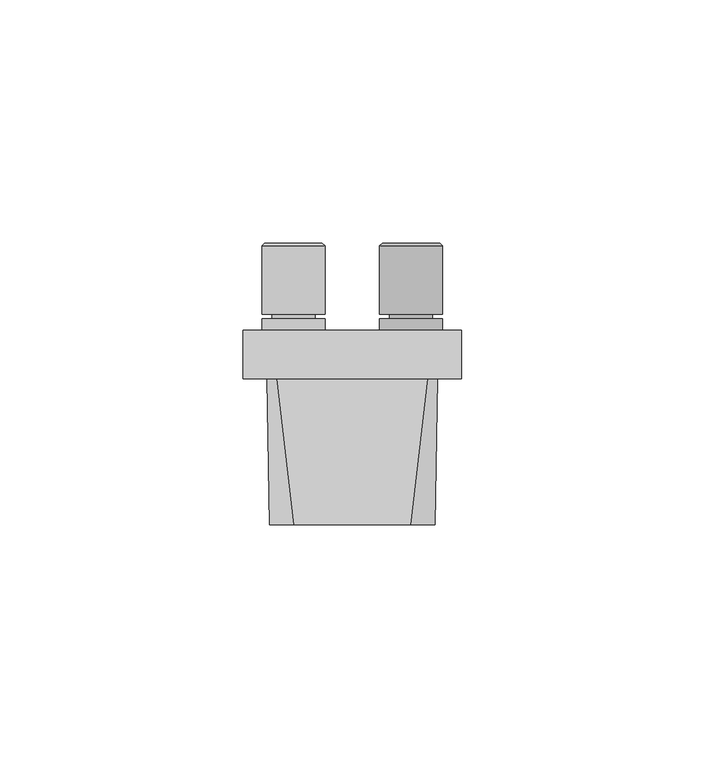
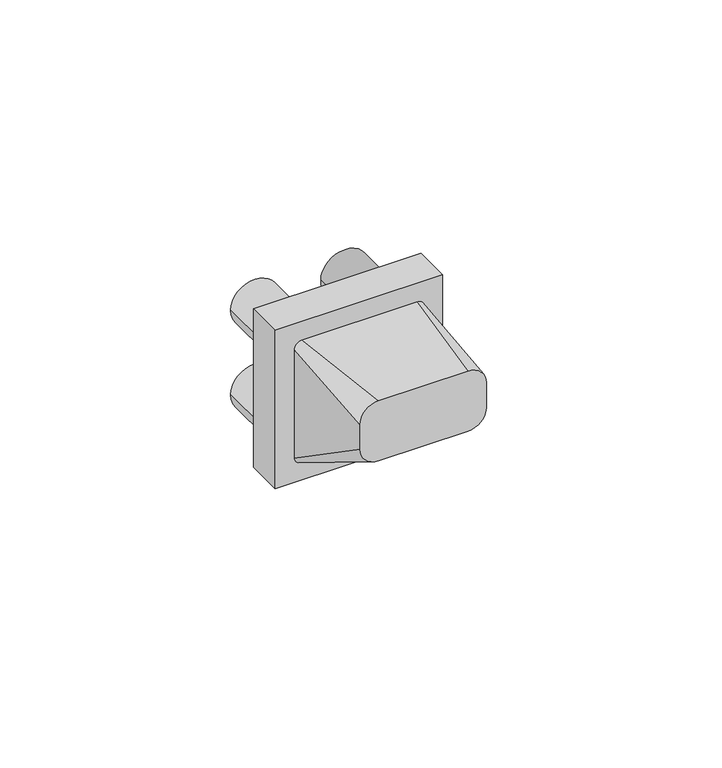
"""IFC4 building model written with IfcOpenShell, lengths in millimetres: proxy geometry, IEK_Skandy_Механизм розетки мультимедийной : АС_SK-A01B."""

from ifc_helpers import new_model, si_unit, frame, origin, place, context, project, spatial, polyline, circle_curve, source, transform, mapped, element, save
from ifc_brep_helpers import plane_surface, cylinder_surface, revolved_surface, spline_surface, advanced_brep


def electrical_fixtures_aca33f49(model_context):
    return source(origin(), model_context, "Body", "AdvancedBrep", [
        advanced_brep(
        [(-8.6801705, 10.0, 10.2159622), (-15.5240968, 10.0, 10.2159622), (-12.1021337, 10.0, 10.2159622), (-8.6801705, 27.9463072, 10.2159622), (-15.5240968, 27.9463072, 10.2159622), (-6.1826229, 27.9463072, 10.2159622), (-18.0216445, 27.9463072, 10.2159622), (-5.6109439, 27.3746282, 10.2159622), (-18.5933235, 27.3746282, 10.2159622), (-5.6109439, 13.294806, 10.2159622), (-18.5933235, 13.294806, 10.2159622), (-7.6805583, 13.294806, 10.2159622), (-16.523709, 13.294806, 10.2159622), (-7.6805583, 12.4143578, 10.2159622), (-16.523709, 12.4143578, 10.2159622), (-5.6109439, 12.4143578, 10.2159622), (-18.5933235, 12.4143578, 10.2159622), (-5.6109439, 3.865818, 10.2159622), (-18.5933235, 3.865818, 10.2159622), (-12.1021337, 3.865818, 10.2159622)],
        [
            (0, 1, circle_curve(frame((-12.1021337, 10.0, 10.2159622), z_axis=(0.0, 1.0, 0.0), x_axis=(-1.0, 0.0, 0.0)), 3.4219631)),
            (1, 2),
            (2, 0),
            (1, 0, circle_curve(frame((-12.1021337, 10.0, 10.2159622), z_axis=(0.0, 1.0, 0.0), x_axis=(-1.0, 0.0, 0.0)), 3.4219631)),
            (3, 4, circle_curve(frame((-12.1021337, 27.9463072, 10.2159622), z_axis=(0.0, 1.0, 0.0), x_axis=(-1.0, 0.0, 0.0)), 3.4219631)),
            (4, 1),
            (0, 3),
            (4, 3, circle_curve(frame((-12.1021337, 27.9463072, 10.2159622), z_axis=(0.0, 1.0, 0.0), x_axis=(-1.0, 0.0, 0.0)), 3.4219631)),
            (5, 6, circle_curve(frame((-12.1021337, 27.9463072, 10.2159622), z_axis=(0.0, 1.0, 0.0), x_axis=(-1.0, 0.0, 0.0)), 5.9195108)),
            (6, 4),
            (3, 5),
            (6, 5, circle_curve(frame((-12.1021337, 27.9463072, 10.2159622), z_axis=(0.0, 1.0, 0.0), x_axis=(-1.0, 0.0, 0.0)), 5.9195108)),
            (7, 8, circle_curve(frame((-12.1021337, 27.3746282, 10.2159622), z_axis=(0.0, 1.0, 0.0), x_axis=(-1.0, 0.0, 0.0)), 6.4911898)),
            (8, 6),
            (5, 7),
            (8, 7, circle_curve(frame((-12.1021337, 27.3746282, 10.2159622), z_axis=(0.0, 1.0, 0.0), x_axis=(-1.0, 0.0, 0.0)), 6.4911898)),
            (9, 10, circle_curve(frame((-12.1021337, 13.294806, 10.2159622), z_axis=(0.0, 1.0, 0.0), x_axis=(-1.0, 0.0, 0.0)), 6.4911898)),
            (10, 8),
            (7, 9),
            (10, 9, circle_curve(frame((-12.1021337, 13.294806, 10.2159622), z_axis=(0.0, 1.0, 0.0), x_axis=(-1.0, 0.0, 0.0)), 6.4911898)),
            (11, 12, circle_curve(frame((-12.1021337, 13.294806, 10.2159622), z_axis=(0.0, 1.0, 0.0), x_axis=(-1.0, 0.0, 0.0)), 4.4215754)),
            (12, 10),
            (9, 11),
            (12, 11, circle_curve(frame((-12.1021337, 13.294806, 10.2159622), z_axis=(0.0, 1.0, 0.0), x_axis=(-1.0, 0.0, 0.0)), 4.4215754)),
            (13, 14, circle_curve(frame((-12.1021337, 12.4143578, 10.2159622), z_axis=(0.0, 1.0, 0.0), x_axis=(-1.0, 0.0, 0.0)), 4.4215754)),
            (14, 12),
            (11, 13),
            (14, 13, circle_curve(frame((-12.1021337, 12.4143578, 10.2159622), z_axis=(0.0, 1.0, 0.0), x_axis=(-1.0, 0.0, 0.0)), 4.4215754)),
            (15, 16, circle_curve(frame((-12.1021337, 12.4143578, 10.2159622), z_axis=(0.0, 1.0, 0.0), x_axis=(-1.0, 0.0, 0.0)), 6.4911898)),
            (16, 14),
            (13, 15),
            (16, 15, circle_curve(frame((-12.1021337, 12.4143578, 10.2159622), z_axis=(0.0, 1.0, 0.0), x_axis=(-1.0, 0.0, 0.0)), 6.4911898)),
            (17, 18, circle_curve(frame((-12.1021337, 3.865818, 10.2159622), z_axis=(0.0, 1.0, 0.0), x_axis=(-1.0, 0.0, 0.0)), 6.4911898)),
            (18, 16),
            (15, 17),
            (18, 17, circle_curve(frame((-12.1021337, 3.865818, 10.2159622), z_axis=(0.0, 1.0, 0.0), x_axis=(-1.0, 0.0, 0.0)), 6.4911898)),
            (19, 18),
            (17, 19),
        ],
        [
            plane_surface(frame((-12.1021337, 10.0, 10.2159622), z_axis=(0.0, 1.0, 0.0), x_axis=(-1.0, 0.0, 0.0))),
            revolved_surface(polyline([(-15.524096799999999, 10.0, 10.2159622), (-15.524096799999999, 27.9463072, 10.2159622)]), (-12.1021337, 3.865818, 10.2159622), (0.0, -1.0, 0.0)),
            plane_surface(frame((-12.1021337, 27.9463072, 10.2159622), z_axis=(0.0, 1.0, 0.0), x_axis=(-1.0, 0.0, 0.0))),
            revolved_surface(polyline([(-18.0216445, 27.9463072, 10.2159622), (-18.5933235, 27.3746282, 10.2159622)]), (-12.1021337, 3.865818, 10.2159622), (0.0, -1.0, 0.0)),
            cylinder_surface(frame((-12.1021337, 3.865818, 10.2159622), z_axis=(0.0, -1.0, 0.0), x_axis=(-1.0, 0.0, 0.0)), 6.4911898),
            plane_surface(frame((-12.1021337, 13.294806, 10.2159622), z_axis=(0.0, -1.0, 0.0), x_axis=(-1.0, 0.0, 0.0))),
            cylinder_surface(frame((-12.1021337, 3.865818, 10.2159622), z_axis=(0.0, -1.0, 0.0), x_axis=(-1.0, 0.0, 0.0)), 4.4215754),
            plane_surface(frame((-12.1021337, 12.4143578, 10.2159622), z_axis=(0.0, 1.0, 0.0), x_axis=(-1.0, 0.0, 0.0))),
            plane_surface(frame((-12.1021337, 3.865818, 10.2159622), z_axis=(0.0, -1.0, 0.0), x_axis=(-1.0, 0.0, 0.0))),
        ],
        [
            (0, [[1, 2, 3]]),
            (0, [[4, -3, -2]]),
            (1, [[5, 6, -1, 7]]),
            (1, [[8, -7, -4, -6]]),
            (2, [[9, 10, -5, 11]]),
            (2, [[12, -11, -8, -10]]),
            (3, [[13, 14, -9, 15]]),
            (3, [[16, -15, -12, -14]]),
            (4, [[17, 18, -13, 19]]),
            (4, [[20, -19, -16, -18]]),
            (5, [[21, 22, -17, 23]]),
            (5, [[24, -23, -20, -22]]),
            (6, [[25, 26, -21, 27]]),
            (6, [[28, -27, -24, -26]]),
            (7, [[29, 30, -25, 31]]),
            (7, [[32, -31, -28, -30]]),
            (4, [[33, 34, -29, 35]]),
            (4, [[36, -35, -32, -34]]),
            (8, [[37, -33, 38]]),
            (8, [[-38, -36, -37]]),
        ],
    ),
        advanced_brep(
        [(-8.6801705, 10.0, -13.75), (-15.5240968, 10.0, -13.75), (-12.1021337, 10.0, -13.75), (-8.6801705, 27.9463072, -13.75), (-15.5240968, 27.9463072, -13.75), (-6.1826229, 27.9463072, -13.75), (-18.0216445, 27.9463072, -13.75), (-5.6109439, 27.3746282, -13.75), (-18.5933235, 27.3746282, -13.75), (-5.6109439, 13.294806, -13.75), (-18.5933235, 13.294806, -13.75), (-7.6805583, 13.294806, -13.75), (-16.523709, 13.294806, -13.75), (-7.6805583, 12.4143578, -13.75), (-16.523709, 12.4143578, -13.75), (-5.6109439, 12.4143578, -13.75), (-18.5933235, 12.4143578, -13.75), (-5.6109439, 3.865818, -13.75), (-18.5933235, 3.865818, -13.75), (-12.1021337, 3.865818, -13.75)],
        [
            (0, 1, circle_curve(frame((-12.1021337, 10.0, -13.75), z_axis=(0.0, 1.0, 0.0), x_axis=(-1.0, 0.0, 0.0)), 3.4219631)),
            (1, 2),
            (2, 0),
            (1, 0, circle_curve(frame((-12.1021337, 10.0, -13.75), z_axis=(0.0, 1.0, 0.0), x_axis=(-1.0, 0.0, 0.0)), 3.4219631)),
            (3, 4, circle_curve(frame((-12.1021337, 27.9463072, -13.75), z_axis=(0.0, 1.0, 0.0), x_axis=(-1.0, 0.0, 0.0)), 3.4219631)),
            (4, 1),
            (0, 3),
            (4, 3, circle_curve(frame((-12.1021337, 27.9463072, -13.75), z_axis=(0.0, 1.0, 0.0), x_axis=(-1.0, 0.0, 0.0)), 3.4219631)),
            (5, 6, circle_curve(frame((-12.1021337, 27.9463072, -13.75), z_axis=(0.0, 1.0, 0.0), x_axis=(-1.0, 0.0, 0.0)), 5.9195108)),
            (6, 4),
            (3, 5),
            (6, 5, circle_curve(frame((-12.1021337, 27.9463072, -13.75), z_axis=(0.0, 1.0, 0.0), x_axis=(-1.0, 0.0, 0.0)), 5.9195108)),
            (7, 8, circle_curve(frame((-12.1021337, 27.3746282, -13.75), z_axis=(0.0, 1.0, 0.0), x_axis=(-1.0, 0.0, 0.0)), 6.4911898)),
            (8, 6),
            (5, 7),
            (8, 7, circle_curve(frame((-12.1021337, 27.3746282, -13.75), z_axis=(0.0, 1.0, 0.0), x_axis=(-1.0, 0.0, 0.0)), 6.4911898)),
            (9, 10, circle_curve(frame((-12.1021337, 13.294806, -13.75), z_axis=(0.0, 1.0, 0.0), x_axis=(-1.0, 0.0, 0.0)), 6.4911898)),
            (10, 8),
            (7, 9),
            (10, 9, circle_curve(frame((-12.1021337, 13.294806, -13.75), z_axis=(0.0, 1.0, 0.0), x_axis=(-1.0, 0.0, 0.0)), 6.4911898)),
            (11, 12, circle_curve(frame((-12.1021337, 13.294806, -13.75), z_axis=(0.0, 1.0, 0.0), x_axis=(-1.0, 0.0, 0.0)), 4.4215754)),
            (12, 10),
            (9, 11),
            (12, 11, circle_curve(frame((-12.1021337, 13.294806, -13.75), z_axis=(0.0, 1.0, 0.0), x_axis=(-1.0, 0.0, 0.0)), 4.4215754)),
            (13, 14, circle_curve(frame((-12.1021337, 12.4143578, -13.75), z_axis=(0.0, 1.0, 0.0), x_axis=(-1.0, 0.0, 0.0)), 4.4215754)),
            (14, 12),
            (11, 13),
            (14, 13, circle_curve(frame((-12.1021337, 12.4143578, -13.75), z_axis=(0.0, 1.0, 0.0), x_axis=(-1.0, 0.0, 0.0)), 4.4215754)),
            (15, 16, circle_curve(frame((-12.1021337, 12.4143578, -13.75), z_axis=(0.0, 1.0, 0.0), x_axis=(-1.0, 0.0, 0.0)), 6.4911898)),
            (16, 14),
            (13, 15),
            (16, 15, circle_curve(frame((-12.1021337, 12.4143578, -13.75), z_axis=(0.0, 1.0, 0.0), x_axis=(-1.0, 0.0, 0.0)), 6.4911898)),
            (17, 18, circle_curve(frame((-12.1021337, 3.865818, -13.75), z_axis=(0.0, 1.0, 0.0), x_axis=(-1.0, 0.0, 0.0)), 6.4911898)),
            (18, 16),
            (15, 17),
            (18, 17, circle_curve(frame((-12.1021337, 3.865818, -13.75), z_axis=(0.0, 1.0, 0.0), x_axis=(-1.0, 0.0, 0.0)), 6.4911898)),
            (19, 18),
            (17, 19),
        ],
        [
            plane_surface(frame((-12.1021337, 10.0, -13.75), z_axis=(0.0, 1.0, 0.0), x_axis=(-1.0, 0.0, 0.0))),
            revolved_surface(polyline([(-15.524096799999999, 10.0, -13.75), (-15.524096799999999, 27.9463072, -13.75)]), (-12.1021337, 3.865818, -13.75), (0.0, -1.0, 0.0)),
            plane_surface(frame((-12.1021337, 27.9463072, -13.75), z_axis=(0.0, 1.0, 0.0), x_axis=(-1.0, 0.0, 0.0))),
            revolved_surface(polyline([(-18.0216445, 27.9463072, -13.75), (-18.5933235, 27.3746282, -13.75)]), (-12.1021337, 3.865818, -13.75), (0.0, -1.0, 0.0)),
            cylinder_surface(frame((-12.1021337, 3.865818, -13.75), z_axis=(0.0, -1.0, 0.0), x_axis=(-1.0, 0.0, 0.0)), 6.4911898),
            plane_surface(frame((-12.1021337, 13.294806, -13.75), z_axis=(0.0, -1.0, 0.0), x_axis=(-1.0, 0.0, 0.0))),
            cylinder_surface(frame((-12.1021337, 3.865818, -13.75), z_axis=(0.0, -1.0, 0.0), x_axis=(-1.0, 0.0, 0.0)), 4.4215754),
            plane_surface(frame((-12.1021337, 12.4143578, -13.75), z_axis=(0.0, 1.0, 0.0), x_axis=(-1.0, 0.0, 0.0))),
            plane_surface(frame((-12.1021337, 3.865818, -13.75), z_axis=(0.0, -1.0, 0.0), x_axis=(-1.0, 0.0, 0.0))),
        ],
        [
            (0, [[1, 2, 3]]),
            (0, [[4, -3, -2]]),
            (1, [[5, 6, -1, 7]]),
            (1, [[8, -7, -4, -6]]),
            (2, [[9, 10, -5, 11]]),
            (2, [[12, -11, -8, -10]]),
            (3, [[13, 14, -9, 15]]),
            (3, [[16, -15, -12, -14]]),
            (4, [[17, 18, -13, 19]]),
            (4, [[20, -19, -16, -18]]),
            (5, [[21, 22, -17, 23]]),
            (5, [[24, -23, -20, -22]]),
            (6, [[25, 26, -21, 27]]),
            (6, [[28, -27, -24, -26]]),
            (7, [[29, 30, -25, 31]]),
            (7, [[32, -31, -28, -30]]),
            (4, [[33, 34, -29, 35]]),
            (4, [[36, -35, -32, -34]]),
            (8, [[37, -33, 38]]),
            (8, [[-38, -36, -37]]),
        ],
    ),
        advanced_brep(
        [(12.1021337, 10.0, -13.75), (15.5240968, 10.0, -13.75), (8.6801705, 10.0, -13.75), (15.5240968, 27.9463072, -13.75), (8.6801705, 27.9463072, -13.75), (18.0216445, 27.9463072, -13.75), (6.1826229, 27.9463072, -13.75), (18.5933235, 27.3746282, -13.75), (5.6109439, 27.3746282, -13.75), (18.5933235, 13.294806, -13.75), (5.6109439, 13.294806, -13.75), (16.523709, 13.294806, -13.75), (7.6805583, 13.294806, -13.75), (16.523709, 12.4143578, -13.75), (7.6805583, 12.4143578, -13.75), (18.5933235, 12.4143578, -13.75), (5.6109439, 12.4143578, -13.75), (18.5933235, 3.865818, -13.75), (5.6109439, 3.865818, -13.75), (12.1021337, 3.865818, -13.75)],
        [
            (0, 1),
            (1, 2, circle_curve(frame((12.1021337, 10.0, -13.75), z_axis=(0.0, 1.0, 0.0), x_axis=(1.0, 0.0, 0.0)), 3.4219631)),
            (2, 0),
            (2, 1, circle_curve(frame((12.1021337, 10.0, -13.75), z_axis=(0.0, 1.0, 0.0), x_axis=(1.0, 0.0, 0.0)), 3.4219631)),
            (1, 3),
            (3, 4, circle_curve(frame((12.1021337, 27.9463072, -13.75), z_axis=(0.0, 1.0, 0.0), x_axis=(1.0, 0.0, 0.0)), 3.4219631)),
            (4, 2),
            (4, 3, circle_curve(frame((12.1021337, 27.9463072, -13.75), z_axis=(0.0, 1.0, 0.0), x_axis=(1.0, 0.0, 0.0)), 3.4219631)),
            (3, 5),
            (5, 6, circle_curve(frame((12.1021337, 27.9463072, -13.75), z_axis=(0.0, 1.0, 0.0), x_axis=(1.0, 0.0, 0.0)), 5.9195108)),
            (6, 4),
            (6, 5, circle_curve(frame((12.1021337, 27.9463072, -13.75), z_axis=(0.0, 1.0, 0.0), x_axis=(1.0, 0.0, 0.0)), 5.9195108)),
            (5, 7),
            (7, 8, circle_curve(frame((12.1021337, 27.3746282, -13.75), z_axis=(0.0, 1.0, 0.0), x_axis=(1.0, 0.0, 0.0)), 6.4911898)),
            (8, 6),
            (8, 7, circle_curve(frame((12.1021337, 27.3746282, -13.75), z_axis=(0.0, 1.0, 0.0), x_axis=(1.0, 0.0, 0.0)), 6.4911898)),
            (7, 9),
            (9, 10, circle_curve(frame((12.1021337, 13.294806, -13.75), z_axis=(0.0, 1.0, 0.0), x_axis=(1.0, 0.0, 0.0)), 6.4911898)),
            (10, 8),
            (10, 9, circle_curve(frame((12.1021337, 13.294806, -13.75), z_axis=(0.0, 1.0, 0.0), x_axis=(1.0, 0.0, 0.0)), 6.4911898)),
            (9, 11),
            (11, 12, circle_curve(frame((12.1021337, 13.294806, -13.75), z_axis=(0.0, 1.0, 0.0), x_axis=(1.0, 0.0, 0.0)), 4.4215754)),
            (12, 10),
            (12, 11, circle_curve(frame((12.1021337, 13.294806, -13.75), z_axis=(0.0, 1.0, 0.0), x_axis=(1.0, 0.0, 0.0)), 4.4215754)),
            (11, 13),
            (13, 14, circle_curve(frame((12.1021337, 12.4143578, -13.75), z_axis=(0.0, 1.0, 0.0), x_axis=(1.0, 0.0, 0.0)), 4.4215754)),
            (14, 12),
            (14, 13, circle_curve(frame((12.1021337, 12.4143578, -13.75), z_axis=(0.0, 1.0, 0.0), x_axis=(1.0, 0.0, 0.0)), 4.4215754)),
            (13, 15),
            (15, 16, circle_curve(frame((12.1021337, 12.4143578, -13.75), z_axis=(0.0, 1.0, 0.0), x_axis=(1.0, 0.0, 0.0)), 6.4911898)),
            (16, 14),
            (16, 15, circle_curve(frame((12.1021337, 12.4143578, -13.75), z_axis=(0.0, 1.0, 0.0), x_axis=(1.0, 0.0, 0.0)), 6.4911898)),
            (15, 17),
            (17, 18, circle_curve(frame((12.1021337, 3.865818, -13.75), z_axis=(0.0, 1.0, 0.0), x_axis=(1.0, 0.0, 0.0)), 6.4911898)),
            (18, 16),
            (18, 17, circle_curve(frame((12.1021337, 3.865818, -13.75), z_axis=(0.0, 1.0, 0.0), x_axis=(1.0, 0.0, 0.0)), 6.4911898)),
            (17, 19),
            (19, 18),
        ],
        [
            plane_surface(frame((12.1021337, 10.0, -13.75), z_axis=(0.0, 1.0, 0.0), x_axis=(1.0, 0.0, 0.0))),
            revolved_surface(polyline([(15.524096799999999, 27.9463072, -13.75), (15.524096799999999, 10.0, -13.75)]), (12.1021337, 3.865818, -13.75), (0.0, 1.0, 0.0)),
            plane_surface(frame((12.1021337, 27.9463072, -13.75), z_axis=(0.0, 1.0, 0.0), x_axis=(1.0, 0.0, 0.0))),
            revolved_surface(polyline([(18.5933235, 27.3746282, -13.75), (18.0216445, 27.9463072, -13.75)]), (12.1021337, 3.865818, -13.75), (0.0, 1.0, 0.0)),
            cylinder_surface(frame((12.1021337, 3.865818, -13.75), z_axis=(0.0, 1.0, 0.0), x_axis=(1.0, 0.0, 0.0)), 6.4911898),
            plane_surface(frame((12.1021337, 13.294806, -13.75), z_axis=(0.0, -1.0, 0.0), x_axis=(1.0, 0.0, 0.0))),
            cylinder_surface(frame((12.1021337, 3.865818, -13.75), z_axis=(0.0, 1.0, 0.0), x_axis=(1.0, 0.0, 0.0)), 4.4215754),
            plane_surface(frame((12.1021337, 12.4143578, -13.75), z_axis=(0.0, 1.0, 0.0), x_axis=(1.0, 0.0, 0.0))),
            plane_surface(frame((12.1021337, 3.865818, -13.75), z_axis=(0.0, -1.0, 0.0), x_axis=(1.0, 0.0, 0.0))),
        ],
        [
            (0, [[1, 2, 3]]),
            (0, [[-3, 4, -1]]),
            (1, [[-2, 5, 6, 7]]),
            (1, [[-4, -7, 8, -5]]),
            (2, [[-6, 9, 10, 11]]),
            (2, [[-8, -11, 12, -9]]),
            (3, [[-10, 13, 14, 15]]),
            (3, [[-12, -15, 16, -13]]),
            (4, [[-14, 17, 18, 19]]),
            (4, [[-16, -19, 20, -17]]),
            (5, [[-18, 21, 22, 23]]),
            (5, [[-20, -23, 24, -21]]),
            (6, [[-22, 25, 26, 27]]),
            (6, [[-24, -27, 28, -25]]),
            (7, [[-26, 29, 30, 31]]),
            (7, [[-28, -31, 32, -29]]),
            (4, [[-30, 33, 34, 35]]),
            (4, [[-32, -35, 36, -33]]),
            (8, [[-34, 37, 38]]),
            (8, [[-36, -38, -37]]),
        ],
    ),
        advanced_brep(
        [(12.1021337, 10.0, 10.2159622), (15.5240968, 10.0, 10.2159622), (8.6801705, 10.0, 10.2159622), (15.5240968, 27.9463072, 10.2159622), (8.6801705, 27.9463072, 10.2159622), (18.0216445, 27.9463072, 10.2159622), (6.1826229, 27.9463072, 10.2159622), (18.5933235, 27.3746282, 10.2159622), (5.6109439, 27.3746282, 10.2159622), (18.5933235, 13.294806, 10.2159622), (5.6109439, 13.294806, 10.2159622), (16.523709, 13.294806, 10.2159622), (7.6805583, 13.294806, 10.2159622), (16.523709, 12.4143578, 10.2159622), (7.6805583, 12.4143578, 10.2159622), (18.5933235, 12.4143578, 10.2159622), (5.6109439, 12.4143578, 10.2159622), (18.5933235, 3.865818, 10.2159622), (5.6109439, 3.865818, 10.2159622), (12.1021337, 3.865818, 10.2159622)],
        [
            (0, 1),
            (1, 2, circle_curve(frame((12.1021337, 10.0, 10.2159622), z_axis=(0.0, 1.0, 0.0), x_axis=(1.0, 0.0, 0.0)), 3.4219631)),
            (2, 0),
            (2, 1, circle_curve(frame((12.1021337, 10.0, 10.2159622), z_axis=(0.0, 1.0, 0.0), x_axis=(1.0, 0.0, 0.0)), 3.4219631)),
            (1, 3),
            (3, 4, circle_curve(frame((12.1021337, 27.9463072, 10.2159622), z_axis=(0.0, 1.0, 0.0), x_axis=(1.0, 0.0, 0.0)), 3.4219631)),
            (4, 2),
            (4, 3, circle_curve(frame((12.1021337, 27.9463072, 10.2159622), z_axis=(0.0, 1.0, 0.0), x_axis=(1.0, 0.0, 0.0)), 3.4219631)),
            (3, 5),
            (5, 6, circle_curve(frame((12.1021337, 27.9463072, 10.2159622), z_axis=(0.0, 1.0, 0.0), x_axis=(1.0, 0.0, 0.0)), 5.9195108)),
            (6, 4),
            (6, 5, circle_curve(frame((12.1021337, 27.9463072, 10.2159622), z_axis=(0.0, 1.0, 0.0), x_axis=(1.0, 0.0, 0.0)), 5.9195108)),
            (5, 7),
            (7, 8, circle_curve(frame((12.1021337, 27.3746282, 10.2159622), z_axis=(0.0, 1.0, 0.0), x_axis=(1.0, 0.0, 0.0)), 6.4911898)),
            (8, 6),
            (8, 7, circle_curve(frame((12.1021337, 27.3746282, 10.2159622), z_axis=(0.0, 1.0, 0.0), x_axis=(1.0, 0.0, 0.0)), 6.4911898)),
            (7, 9),
            (9, 10, circle_curve(frame((12.1021337, 13.294806, 10.2159622), z_axis=(0.0, 1.0, 0.0), x_axis=(1.0, 0.0, 0.0)), 6.4911898)),
            (10, 8),
            (10, 9, circle_curve(frame((12.1021337, 13.294806, 10.2159622), z_axis=(0.0, 1.0, 0.0), x_axis=(1.0, 0.0, 0.0)), 6.4911898)),
            (9, 11),
            (11, 12, circle_curve(frame((12.1021337, 13.294806, 10.2159622), z_axis=(0.0, 1.0, 0.0), x_axis=(1.0, 0.0, 0.0)), 4.4215754)),
            (12, 10),
            (12, 11, circle_curve(frame((12.1021337, 13.294806, 10.2159622), z_axis=(0.0, 1.0, 0.0), x_axis=(1.0, 0.0, 0.0)), 4.4215754)),
            (11, 13),
            (13, 14, circle_curve(frame((12.1021337, 12.4143578, 10.2159622), z_axis=(0.0, 1.0, 0.0), x_axis=(1.0, 0.0, 0.0)), 4.4215754)),
            (14, 12),
            (14, 13, circle_curve(frame((12.1021337, 12.4143578, 10.2159622), z_axis=(0.0, 1.0, 0.0), x_axis=(1.0, 0.0, 0.0)), 4.4215754)),
            (13, 15),
            (15, 16, circle_curve(frame((12.1021337, 12.4143578, 10.2159622), z_axis=(0.0, 1.0, 0.0), x_axis=(1.0, 0.0, 0.0)), 6.4911898)),
            (16, 14),
            (16, 15, circle_curve(frame((12.1021337, 12.4143578, 10.2159622), z_axis=(0.0, 1.0, 0.0), x_axis=(1.0, 0.0, 0.0)), 6.4911898)),
            (15, 17),
            (17, 18, circle_curve(frame((12.1021337, 3.865818, 10.2159622), z_axis=(0.0, 1.0, 0.0), x_axis=(1.0, 0.0, 0.0)), 6.4911898)),
            (18, 16),
            (18, 17, circle_curve(frame((12.1021337, 3.865818, 10.2159622), z_axis=(0.0, 1.0, 0.0), x_axis=(1.0, 0.0, 0.0)), 6.4911898)),
            (17, 19),
            (19, 18),
        ],
        [
            plane_surface(frame((12.1021337, 10.0, 10.2159622), z_axis=(0.0, 1.0, 0.0), x_axis=(1.0, 0.0, 0.0))),
            revolved_surface(polyline([(15.524096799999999, 27.9463072, 10.2159622), (15.524096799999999, 10.0, 10.2159622)]), (12.1021337, 3.865818, 10.2159622), (0.0, 1.0, 0.0)),
            plane_surface(frame((12.1021337, 27.9463072, 10.2159622), z_axis=(0.0, 1.0, 0.0), x_axis=(1.0, 0.0, 0.0))),
            revolved_surface(polyline([(18.5933235, 27.3746282, 10.2159622), (18.0216445, 27.9463072, 10.2159622)]), (12.1021337, 3.865818, 10.2159622), (0.0, 1.0, 0.0)),
            cylinder_surface(frame((12.1021337, 3.865818, 10.2159622), z_axis=(0.0, 1.0, 0.0), x_axis=(1.0, 0.0, 0.0)), 6.4911898),
            plane_surface(frame((12.1021337, 13.294806, 10.2159622), z_axis=(0.0, -1.0, 0.0), x_axis=(1.0, 0.0, 0.0))),
            cylinder_surface(frame((12.1021337, 3.865818, 10.2159622), z_axis=(0.0, 1.0, 0.0), x_axis=(1.0, 0.0, 0.0)), 4.4215754),
            plane_surface(frame((12.1021337, 12.4143578, 10.2159622), z_axis=(0.0, 1.0, 0.0), x_axis=(1.0, 0.0, 0.0))),
            plane_surface(frame((12.1021337, 3.865818, 10.2159622), z_axis=(0.0, -1.0, 0.0), x_axis=(1.0, 0.0, 0.0))),
        ],
        [
            (0, [[1, 2, 3]]),
            (0, [[-3, 4, -1]]),
            (1, [[-2, 5, 6, 7]]),
            (1, [[-4, -7, 8, -5]]),
            (2, [[-6, 9, 10, 11]]),
            (2, [[-8, -11, 12, -9]]),
            (3, [[-10, 13, 14, 15]]),
            (3, [[-12, -15, 16, -13]]),
            (4, [[-14, 17, 18, 19]]),
            (4, [[-16, -19, 20, -17]]),
            (5, [[-18, 21, 22, 23]]),
            (5, [[-20, -23, 24, -21]]),
            (6, [[-22, 25, 26, 27]]),
            (6, [[-24, -27, 28, -25]]),
            (7, [[-26, 29, 30, 31]]),
            (7, [[-28, -31, 32, -29]]),
            (4, [[-30, 33, 34, 35]]),
            (4, [[-32, -35, 36, -33]]),
            (8, [[-34, 37, 38]]),
            (8, [[-36, -38, -37]]),
        ],
    ),
        advanced_brep(
        [(-22.5, 10.0, 22.5), (22.5, 10.0, 22.5), (22.5, 10.0, -22.5), (-22.5, 10.0, -22.5), (19.0620735, 10.0, -13.75), (5.0620735, 10.0, -13.75), (-5.0620735, 10.0, -13.75), (-19.0620735, 10.0, -13.75), (19.0620735, 10.0, 10.2159622), (5.0620735, 10.0, 10.2159622), (-5.0620735, 10.0, 10.2159622), (-19.0620735, 10.0, 10.2159622), (-22.5, 0.0, 22.5), (-22.5, 0.0, -22.5), (22.5, 0.0, -22.5), (22.5, 0.0, 22.5), (5.0620735, 3.865818, 10.2159622), (19.0620735, 3.865818, 10.2159622), (-19.0620735, 3.865818, 10.2159622), (-5.0620735, 3.865818, 10.2159622), (5.0620735, 3.865818, -13.75), (19.0620735, 3.865818, -13.75), (-19.0620735, 3.865818, -13.75), (-5.0620735, 3.865818, -13.75)],
        [
            (0, 1),
            (1, 2),
            (2, 3),
            (3, 0),
            (4, 5, circle_curve(frame((12.0620735, 10.0, -13.75), z_axis=(0.0, -1.0, 0.0), x_axis=(1.0, 0.0, 0.0)), 7.0)),
            (5, 4, circle_curve(frame((12.0620735, 10.0, -13.75), z_axis=(0.0, -1.0, 0.0), x_axis=(1.0, 0.0, 0.0)), 7.0)),
            (6, 7, circle_curve(frame((-12.0620735, 10.0, -13.75), z_axis=(0.0, -1.0, 0.0), x_axis=(1.0, 0.0, 0.0)), 7.0)),
            (7, 6, circle_curve(frame((-12.0620735, 10.0, -13.75), z_axis=(0.0, -1.0, 0.0), x_axis=(1.0, 0.0, 0.0)), 7.0)),
            (8, 9, circle_curve(frame((12.0620735, 10.0, 10.2159622), z_axis=(0.0, -1.0, 0.0), x_axis=(1.0, 0.0, 0.0)), 7.0)),
            (9, 8, circle_curve(frame((12.0620735, 10.0, 10.2159622), z_axis=(0.0, -1.0, 0.0), x_axis=(1.0, 0.0, 0.0)), 7.0)),
            (10, 11, circle_curve(frame((-12.0620735, 10.0, 10.2159622), z_axis=(0.0, -1.0, 0.0), x_axis=(1.0, 0.0, 0.0)), 7.0)),
            (11, 10, circle_curve(frame((-12.0620735, 10.0, 10.2159622), z_axis=(0.0, -1.0, 0.0), x_axis=(1.0, 0.0, 0.0)), 7.0)),
            (12, 13),
            (13, 14),
            (14, 15),
            (15, 12),
            (3, 13),
            (12, 0),
            (2, 14),
            (1, 15),
            (16, 17, circle_curve(frame((12.0620735, 3.865818, 10.2159622), z_axis=(0.0, 1.0, 0.0), x_axis=(1.0, 0.0, 0.0)), 7.0)),
            (17, 16, circle_curve(frame((12.0620735, 3.865818, 10.2159622), z_axis=(0.0, 1.0, 0.0), x_axis=(1.0, 0.0, 0.0)), 7.0)),
            (18, 19, circle_curve(frame((-12.0620735, 3.865818, 10.2159622), z_axis=(0.0, 1.0, 0.0), x_axis=(1.0, 0.0, 0.0)), 7.0)),
            (19, 18, circle_curve(frame((-12.0620735, 3.865818, 10.2159622), z_axis=(0.0, 1.0, 0.0), x_axis=(1.0, 0.0, 0.0)), 7.0)),
            (20, 21, circle_curve(frame((12.0620735, 3.865818, -13.75), z_axis=(0.0, 1.0, 0.0), x_axis=(1.0, 0.0, 0.0)), 7.0)),
            (21, 20, circle_curve(frame((12.0620735, 3.865818, -13.75), z_axis=(0.0, 1.0, 0.0), x_axis=(1.0, 0.0, 0.0)), 7.0)),
            (22, 23, circle_curve(frame((-12.0620735, 3.865818, -13.75), z_axis=(0.0, 1.0, 0.0), x_axis=(1.0, 0.0, 0.0)), 7.0)),
            (23, 22, circle_curve(frame((-12.0620735, 3.865818, -13.75), z_axis=(0.0, 1.0, 0.0), x_axis=(1.0, 0.0, 0.0)), 7.0)),
            (16, 9),
            (8, 17),
            (18, 11),
            (10, 19),
            (20, 5),
            (4, 21),
            (22, 7),
            (6, 23),
        ],
        [
            plane_surface(frame((-22.5, 10.0, -22.5), z_axis=(0.0, 1.0, 0.0), x_axis=(0.0, 0.0, 1.0))),
            plane_surface(frame((-22.5, 0.0, -22.5), z_axis=(0.0, -1.0, 0.0), x_axis=(0.0, 0.0, -1.0))),
            plane_surface(frame((-22.5, 0.0, 22.5), z_axis=(-1.0, 0.0, 0.0), x_axis=(0.0, 1.0, 0.0))),
            plane_surface(frame((-22.5, 0.0, -22.5), z_axis=(0.0, 0.0, -1.0), x_axis=(0.0, 1.0, 0.0))),
            plane_surface(frame((22.5, 0.0, -22.5), z_axis=(1.0, 0.0, 0.0), x_axis=(0.0, 1.0, 0.0))),
            plane_surface(frame((22.5, 0.0, 22.5), z_axis=(0.0, 0.0, 1.0), x_axis=(0.0, 1.0, 0.0))),
            plane_surface(frame((19.0620735, 3.865818, 10.2159622), z_axis=(0.0, 1.0, 0.0), x_axis=(0.0, 0.0, 1.0))),
            revolved_surface(polyline([(19.0620735, 10.0, 10.2159622), (19.0620735, 3.865818, 10.2159622)]), (12.0620735, 3.865818, 10.2159622), (0.0, 1.0, 0.0)),
            revolved_surface(polyline([(-5.0620735, 10.0, 10.2159622), (-5.0620735, 3.865818, 10.2159622)]), (-12.0620735, 10.0, 10.2159622), (0.0, 1.0, 0.0)),
            revolved_surface(polyline([(19.0620735, 10.0, -13.75), (19.0620735, 3.865818, -13.75)]), (12.0620735, 10.0, -13.75), (0.0, 1.0, 0.0)),
            revolved_surface(polyline([(-5.0620735, 10.0, -13.75), (-5.0620735, 3.865818, -13.75)]), (-12.0620735, 10.0, -13.75), (0.0, 1.0, 0.0)),
        ],
        [
            (0, [[1, 2, 3, 4], [5, 6], [7, 8], [9, 10], [11, 12]]),
            (1, [[13, 14, 15, 16]]),
            (2, [[-4, 17, -13, 18]]),
            (3, [[-3, 19, -14, -17]]),
            (4, [[-2, 20, -15, -19]]),
            (5, [[-1, -18, -16, -20]]),
            (6, [[21, 22]]),
            (6, [[23, 24]]),
            (6, [[25, 26]]),
            (6, [[27, 28]]),
            (7, [[-21, 29, -9, 30]]),
            (7, [[-22, -30, -10, -29]]),
            (8, [[-23, 31, -11, 32]]),
            (8, [[-24, -32, -12, -31]]),
            (9, [[-25, 33, -5, 34]]),
            (9, [[-26, -34, -6, -33]]),
            (10, [[-27, 35, -7, 36]]),
            (10, [[-28, -36, -8, -35]]),
        ],
    ),
        advanced_brep(
        [(-12.0, -30.0, 17.0), (-17.0, -30.0, 12.0), (-17.0, -30.0, 5.0), (-12.0, -30.0, 0.0), (12.0, -30.0, 0.0), (17.0, -30.0, 5.0), (17.0, -30.0, 12.0), (12.0, -30.0, 17.0), (-15.5, 0.0, 17.5), (15.5, 0.0, 17.5), (17.5, 0.0, 15.5), (17.5, 0.0, -15.5), (15.5, 0.0, -17.5), (-15.5, 0.0, -17.5), (-17.5, 0.0, -15.5), (-17.5, 0.0, 15.5)],
        [
            (0, 1, circle_curve(frame((-12.0, -30.0, 12.0), z_axis=(0.0, -1.0, 0.0), x_axis=(1.0, 0.0, 0.0)), 5.0)),
            (1, 2),
            (2, 3, circle_curve(frame((-12.0, -30.0, 5.0), z_axis=(0.0, -1.0, 0.0), x_axis=(1.0, 0.0, 0.0)), 5.0)),
            (3, 4),
            (4, 5, circle_curve(frame((12.0, -30.0, 5.0), z_axis=(0.0, -1.0, 0.0), x_axis=(1.0, 0.0, 0.0)), 5.0)),
            (5, 6),
            (6, 7, circle_curve(frame((12.0, -30.0, 12.0), z_axis=(0.0, -1.0, 0.0), x_axis=(1.0, 0.0, 0.0)), 5.0)),
            (7, 0),
            (8, 9),
            (9, 10, circle_curve(frame((15.5, 0.0, 15.5), z_axis=(0.0, 1.0, 0.0), x_axis=(1.0, 0.0, 0.0)), 2.0)),
            (10, 11),
            (11, 12, circle_curve(frame((15.5, 0.0, -15.5), z_axis=(0.0, 1.0, 0.0), x_axis=(1.0, 0.0, 0.0)), 2.0)),
            (12, 13),
            (13, 14, circle_curve(frame((-15.5, 0.0, -15.5), z_axis=(0.0, 1.0, 0.0), x_axis=(1.0, 0.0, 0.0)), 2.0)),
            (14, 15),
            (15, 8, circle_curve(frame((-15.5, 0.0, 15.5), z_axis=(0.0, 1.0, 0.0), x_axis=(1.0, 0.0, 0.0)), 2.0)),
            (8, 0),
            (7, 9),
            (6, 10),
            (5, 11),
            (4, 12),
            (3, 13),
            (15, 1),
            (14, 2),
        ],
        [
            plane_surface(frame((0.0, -30.0, 8.5), z_axis=(0.0, -1.0, 0.0), x_axis=(-1.0, 0.0, 0.0))),
            plane_surface(frame((0.0, 0.0, 0.0), z_axis=(0.0, 1.0, 0.0), x_axis=(-1.0, 0.0, 0.0))),
            plane_surface(frame((0.0, 0.0, 17.5), z_axis=(0.0, -0.01666435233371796, 0.9998611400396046), x_axis=(-1.0, 0.0, 0.0))),
            spline_surface(2, 1, [[(17.5, 0.0, 15.5), (17.0, -30.0, 12.0)], [(17.5, 0.0, 17.5), (17.0, -30.0, 17.0)], [(15.5, 0.0, 17.5), (12.0, -30.0, 17.0)]], [3, 3], [2, 2], [0.0, 1.0], [0.0, 1.0], weights=[[1.0, 1.0], [0.7071067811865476, 0.7071067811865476], [1.0, 1.0]]),
            plane_surface(frame((17.5, 0.0, 0.0), z_axis=(0.9998611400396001, -0.016664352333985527, 0.0), x_axis=(0.0, 0.0, 1.0))),
            spline_surface(2, 1, [[(15.5, 0.0, -17.5), (12.0, -30.0, 0.0)], [(17.5, 0.0, -17.5), (17.0, -30.0, 0.0)], [(17.5, 0.0, -15.5), (17.0, -30.0, 5.0)]], [3, 3], [2, 2], [0.0, 1.0], [0.0, 1.0], weights=[[1.0, 1.0], [0.7071067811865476, 0.7071067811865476], [1.0, 1.0]]),
            plane_surface(frame((0.0, 0.0, -17.5), z_axis=(0.0, -0.5038710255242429, -0.863778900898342), x_axis=(1.0, 0.0, 0.0))),
            spline_surface(2, 1, [[(-15.5, 0.0, 17.5), (-12.0, -30.0, 17.0)], [(-17.5, 0.0, 17.5), (-17.0, -30.0, 17.0)], [(-17.5, 0.0, 15.5), (-17.0, -30.0, 12.0)]], [3, 3], [2, 2], [0.0, 1.0], [0.0, 1.0], weights=[[1.0, 1.0], [0.7071067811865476, 0.7071067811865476], [1.0, 1.0]]),
            plane_surface(frame((-17.5, 0.0, 0.0), z_axis=(-0.9998611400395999, -0.01666435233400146, 0.0), x_axis=(0.0, 0.0, -1.0))),
            spline_surface(2, 1, [[(-17.5, 0.0, -15.5), (-17.0, -30.0, 5.0)], [(-17.5, 0.0, -17.5), (-17.0, -30.0, 0.0)], [(-15.5, 0.0, -17.5), (-12.0, -30.0, 0.0)]], [3, 3], [2, 2], [0.0, 1.0], [0.0, 1.0], weights=[[1.0, 1.0], [0.7071067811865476, 0.7071067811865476], [1.0, 1.0]]),
        ],
        [
            (0, [[1, 2, 3, 4, 5, 6, 7, 8]]),
            (1, [[9, 10, 11, 12, 13, 14, 15, 16]]),
            (2, [[-9, 17, -8, 18]]),
            (3, [[-10, -18, -7, 19]]),
            (4, [[-11, -19, -6, 20]]),
            (5, [[-12, -20, -5, 21]]),
            (6, [[-13, -21, -4, 22]]),
            (7, [[-16, 23, -1, -17]]),
            (8, [[-15, 24, -2, -23]]),
            (9, [[-14, -22, -3, -24]]),
        ],
    ),
    ])


if __name__ == "__main__":
    model = new_model("IFC4")
    model_context = context("Model", 3, world=origin())
    ifc_project = project(units=[si_unit("LENGTHUNIT", "METRE", prefix="MILLI")], contexts=[model_context])
    site = spatial("IfcSite", under=ifc_project)
    building = spatial("IfcBuilding", under=site)
    placement = place(None, origin())
    electrical_fixtures_shape = electrical_fixtures_aca33f49(model_context)
    element("IfcBuildingElementProxy", 1, Name="IEK_Skandy_Механизм розетки мультимедийной : АС_SK-A01B", ObjectType="IEK_Skandy_Механизм розетки мультимедийной : АС_SK-A01B", at=placement, inside=building, context=model_context, shape_type="MappedRepresentation", body=[
        mapped(electrical_fixtures_shape, transform((0.0, 0.0, 0.0), x_axis=(1.0, 0.0, 0.0), y_axis=(0.0, 1.0, 0.0), z_axis=(0.0, 0.0, 1.0))),
    ])
    save(model, "model.ifc")
